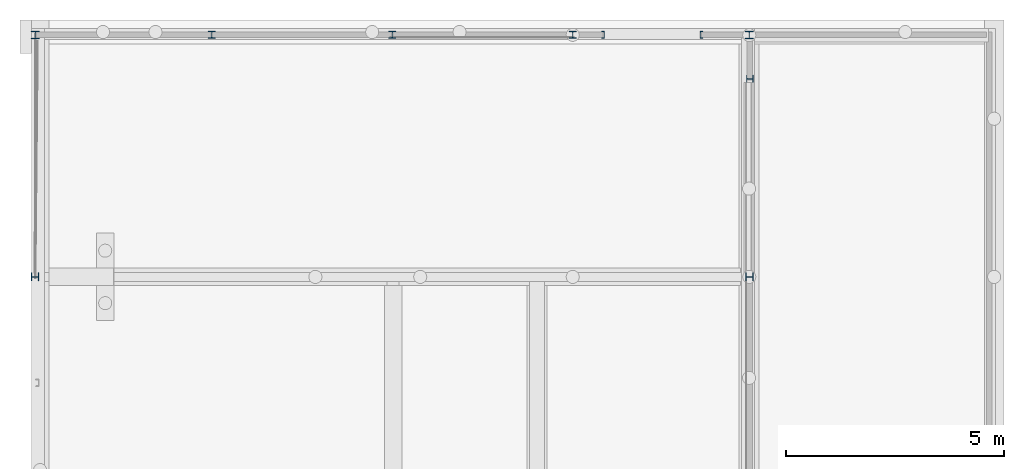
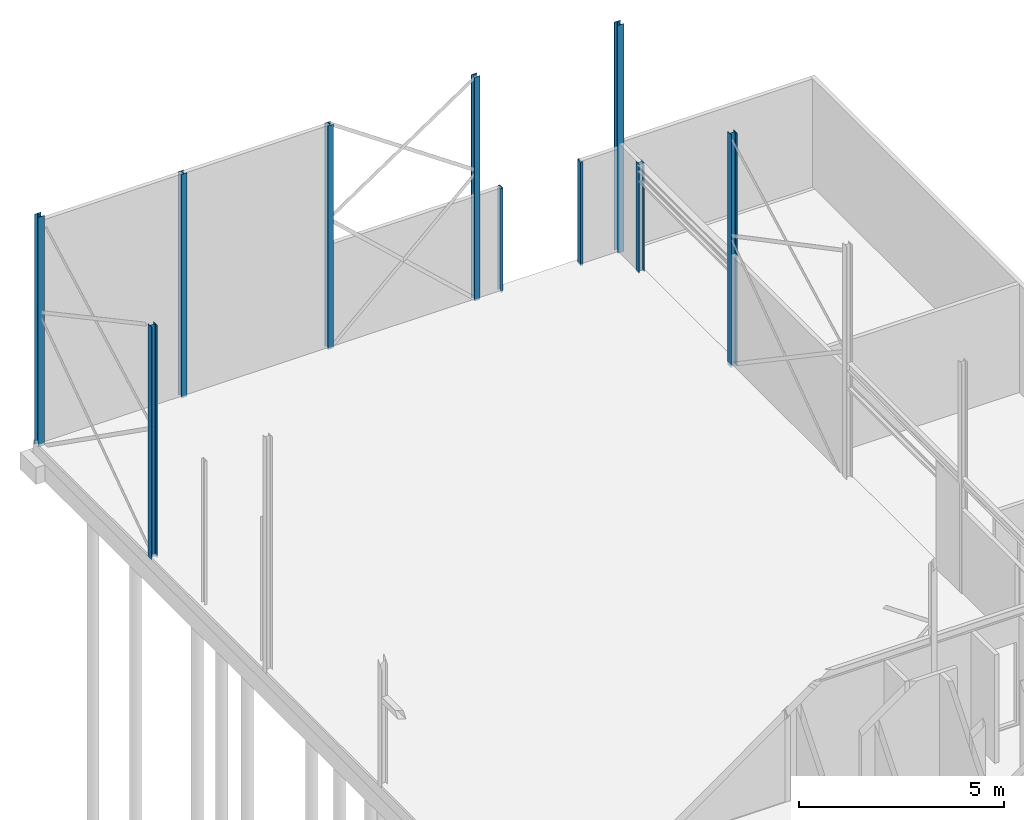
# One storey, part 7 of 17: 10 columns.
"""IFC2X3 building model written with IfcOpenShell, lengths in millimetres."""

from ifc_helpers import new_model, entity, si_unit, converted_unit, derived_unit, direction, frame, frame_2d, origin, place, context, subcontext, project, spatial, polyline, circle_curve, parameter, trimmed, segment, composite_curve, outline, extrude, source, transform, mapped, material, type_object, type_shapes, element, save


model = new_model("IFC2X3")

# Units and contexts
model_context = context("Model", 3, precision=0.01, world=origin(), true_north=direction((6.123031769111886e-17, 1.0)))
plan_context = context("Plan", 3, precision=0.01, world=origin(), true_north=direction((6.123031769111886e-17, 1.0)))
body_context = subcontext(model_context, "Body", "Model", "MODEL_VIEW")
ifc_project = project(units=[si_unit("LENGTHUNIT", "METRE", prefix="MILLI"), si_unit("AREAUNIT", "SQUARE_METRE"), si_unit("VOLUMEUNIT", "CUBIC_METRE"), converted_unit("PLANEANGLEUNIT", "DEGREE", entity("IfcPlaneAngleMeasure", 0.017453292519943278), si_unit("PLANEANGLEUNIT", "RADIAN"), dimensions=[0, 0, 0, 0, 0, 0, 0]), si_unit("MASSUNIT", "GRAM", prefix="KILO"), derived_unit("MASSDENSITYUNIT", [(si_unit("MASSUNIT", "GRAM", prefix="KILO"), 1), (si_unit("LENGTHUNIT", "METRE"), -3)]), derived_unit("IONCONCENTRATIONUNIT", [(si_unit("MASSUNIT", "GRAM", prefix="KILO"), 1), (si_unit("LENGTHUNIT", "METRE"), -3)]), derived_unit("MOMENTOFINERTIAUNIT", [(si_unit("LENGTHUNIT", "METRE"), 4)]), si_unit("TIMEUNIT", "SECOND"), si_unit("FREQUENCYUNIT", "HERTZ"), si_unit("THERMODYNAMICTEMPERATUREUNIT", "DEGREE_CELSIUS"), derived_unit("THERMALTRANSMITTANCEUNIT", [(si_unit("MASSUNIT", "GRAM", prefix="KILO"), 1), (si_unit("THERMODYNAMICTEMPERATUREUNIT", "KELVIN"), -1), (si_unit("TIMEUNIT", "SECOND"), -3)]), derived_unit("THERMALCONDUCTANCEUNIT", [(si_unit("MASSUNIT", "GRAM", prefix="KILO"), 1), (si_unit("THERMODYNAMICTEMPERATUREUNIT", "KELVIN"), -1), (si_unit("TIMEUNIT", "SECOND"), -3), (si_unit("LENGTHUNIT", "METRE"), 1)]), derived_unit("VOLUMETRICFLOWRATEUNIT", [(si_unit("LENGTHUNIT", "METRE", prefix="DECI"), 3), (si_unit("TIMEUNIT", "SECOND"), -1)]), derived_unit("MASSFLOWRATEUNIT", [(si_unit("MASSUNIT", "GRAM", prefix="KILO"), 1), (si_unit("TIMEUNIT", "SECOND"), -1)]), derived_unit("ROTATIONALFREQUENCYUNIT", [(si_unit("TIMEUNIT", "SECOND"), -1)]), si_unit("ELECTRICCURRENTUNIT", "AMPERE"), si_unit("ELECTRICVOLTAGEUNIT", "VOLT"), si_unit("POWERUNIT", "WATT"), si_unit("FORCEUNIT", "NEWTON", prefix="KILO"), si_unit("ILLUMINANCEUNIT", "LUX"), si_unit("LUMINOUSFLUXUNIT", "LUMEN"), si_unit("LUMINOUSINTENSITYUNIT", "CANDELA"), si_unit("ENERGYUNIT", "JOULE"), derived_unit("USERDEFINED", [(si_unit("MASSUNIT", "GRAM", prefix="KILO"), -1), (si_unit("LENGTHUNIT", "METRE"), -2), (si_unit("TIMEUNIT", "SECOND"), 3), (si_unit("LUMINOUSFLUXUNIT", "LUMEN"), 1)]), derived_unit("USERDEFINED", [(si_unit("MASSUNIT", "GRAM", prefix="KILO"), 1), (si_unit("TIMEUNIT", "SECOND"), -3), (si_unit("LENGTHUNIT", "METRE"), 3), (si_unit("ELECTRICCURRENTUNIT", "AMPERE"), -2)]), derived_unit("SOUNDPOWERUNIT", [(si_unit("MASSUNIT", "GRAM", prefix="KILO"), 1), (si_unit("TIMEUNIT", "SECOND"), -3), (si_unit("LENGTHUNIT", "METRE"), 2)]), derived_unit("SOUNDPRESSUREUNIT", [(si_unit("MASSUNIT", "GRAM", prefix="KILO"), 1), (si_unit("LENGTHUNIT", "METRE"), -1), (si_unit("TIMEUNIT", "SECOND"), -2)]), derived_unit("LINEARVELOCITYUNIT", [(si_unit("LENGTHUNIT", "METRE"), 1), (si_unit("TIMEUNIT", "SECOND"), -1)]), si_unit("PRESSUREUNIT", "PASCAL"), derived_unit("USERDEFINED", [(si_unit("MASSUNIT", "GRAM", prefix="KILO"), 1), (si_unit("LENGTHUNIT", "METRE"), -2), (si_unit("TIMEUNIT", "SECOND"), -2)]), derived_unit("LINEARFORCEUNIT", [(si_unit("MASSUNIT", "GRAM", prefix="KILO"), 1), (si_unit("TIMEUNIT", "SECOND"), -2)]), derived_unit("PLANARFORCEUNIT", [(si_unit("MASSUNIT", "GRAM", prefix="KILO"), 1), (si_unit("LENGTHUNIT", "METRE"), -1), (si_unit("TIMEUNIT", "SECOND"), -2)]), derived_unit("SPECIFICHEATCAPACITYUNIT", [(si_unit("THERMODYNAMICTEMPERATUREUNIT", "KELVIN"), -1), (si_unit("LENGTHUNIT", "METRE"), 2), (si_unit("TIMEUNIT", "SECOND"), -2)]), derived_unit("HEATFLUXDENSITYUNIT", [(si_unit("MASSUNIT", "GRAM", prefix="KILO"), 1), (si_unit("TIMEUNIT", "SECOND"), -3)]), derived_unit("HEATINGVALUEUNIT", [(si_unit("LENGTHUNIT", "METRE"), 2), (si_unit("TIMEUNIT", "SECOND"), -2)]), derived_unit("VAPORPERMEABILITYUNIT", [(si_unit("LENGTHUNIT", "METRE"), -1), (si_unit("TIMEUNIT", "SECOND"), 1)]), derived_unit("DYNAMICVISCOSITYUNIT", [(si_unit("MASSUNIT", "GRAM", prefix="KILO"), 1), (si_unit("TIMEUNIT", "SECOND"), -1), (si_unit("LENGTHUNIT", "METRE"), -1)]), derived_unit("THERMALEXPANSIONCOEFFICIENTUNIT", [(si_unit("THERMODYNAMICTEMPERATUREUNIT", "KELVIN"), -1)]), derived_unit("MODULUSOFELASTICITYUNIT", [(si_unit("MASSUNIT", "GRAM", prefix="KILO"), 1), (si_unit("LENGTHUNIT", "METRE"), -1), (si_unit("TIMEUNIT", "SECOND"), -2)]), derived_unit("ISOTHERMALMOISTURECAPACITYUNIT", [(si_unit("MASSUNIT", "GRAM", prefix="KILO"), -1), (si_unit("LENGTHUNIT", "METRE"), 3)]), derived_unit("MOISTUREDIFFUSIVITYUNIT", [(si_unit("TIMEUNIT", "SECOND"), -1), (si_unit("LENGTHUNIT", "METRE"), 2)]), derived_unit("MASSPERLENGTHUNIT", [(si_unit("MASSUNIT", "GRAM", prefix="KILO"), 1), (si_unit("LENGTHUNIT", "METRE"), -1)]), derived_unit("THERMALRESISTANCEUNIT", [(si_unit("MASSUNIT", "GRAM", prefix="KILO"), -1), (si_unit("TIMEUNIT", "SECOND"), 3), (si_unit("THERMODYNAMICTEMPERATUREUNIT", "KELVIN"), 1)]), derived_unit("ACCELERATIONUNIT", [(si_unit("LENGTHUNIT", "METRE"), 1), (si_unit("TIMEUNIT", "SECOND"), -2)]), derived_unit("ANGULARVELOCITYUNIT", [(si_unit("TIMEUNIT", "SECOND"), -1), (si_unit("PLANEANGLEUNIT", "RADIAN"), 1)]), derived_unit("LINEARSTIFFNESSUNIT", [(si_unit("MASSUNIT", "GRAM", prefix="KILO"), 1), (si_unit("TIMEUNIT", "SECOND"), -2)]), derived_unit("WARPINGCONSTANTUNIT", [(si_unit("LENGTHUNIT", "METRE"), 6)]), derived_unit("LINEARMOMENTUNIT", [(si_unit("MASSUNIT", "GRAM", prefix="KILO"), 1), (si_unit("LENGTHUNIT", "METRE"), 1), (si_unit("TIMEUNIT", "SECOND"), -2)]), derived_unit("TORQUEUNIT", [(si_unit("MASSUNIT", "GRAM", prefix="KILO"), 1), (si_unit("LENGTHUNIT", "METRE"), 2), (si_unit("TIMEUNIT", "SECOND"), -2)])], contexts=[model_context, plan_context])

# Site, building, storey
site_placement = place(None, origin())
site = spatial("IfcSite", under=ifc_project, at=site_placement, Name="Default", CompositionType="ELEMENT")
building_placement = place(site_placement, origin())
building = spatial("IfcBuilding", under=site, at=building_placement, CompositionType="ELEMENT")
storey_placement = place(building_placement, origin())
storey = spatial("IfcBuildingStorey", under=building, at=storey_placement, Name="00 begane grond", CompositionType="ELEMENT", Elevation=0.0)

# Columns
ifc_material = material(Name="constructiestaal S235")
column_type_1 = type_object("IfcColumnType", Name="28_SCO_TLB_HEA kolom_dw:HE180A (S235)", PredefinedType="COLUMN", material=ifc_material)
shared_shape_1 = source(origin(), body_context, "Body", "SweptSolid", [
    extrude(outline(composite_curve([segment(polyline([(-90.0, -76.0), (-90.0, -85.49999999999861)]), True, "CONTINUOUS"), segment(polyline([(-90.0, -85.49999999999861), (90.0, -85.49999999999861)]), True, "CONTINUOUS"), segment(polyline([(90.0, -85.49999999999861), (90.0, -76.0)]), True, "CONTINUOUS"), segment(polyline([(90.0, -76.0), (18.0, -76.0)]), True, "CONTINUOUS"), segment(trimmed(circle_curve(frame_2d((18.0, -61.0), x_axis=(1.0, 0.0)), 15.0), [parameter(180.00000000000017)], [parameter(269.9999999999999)], True, "PARAMETER"), False, "CONTINUOUS"), segment(polyline([(3.0, -61.0), (3.0, 61.0)]), True, "CONTINUOUS"), segment(trimmed(circle_curve(frame_2d((18.0, 61.0), x_axis=(1.0, 0.0)), 15.0), [parameter(90.00000000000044)], [parameter(180.0000000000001)], True, "PARAMETER"), False, "CONTINUOUS"), segment(polyline([(18.0, 76.0), (90.0, 76.0)]), True, "CONTINUOUS"), segment(polyline([(90.0, 76.0), (90.0, 85.49999999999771)]), True, "CONTINUOUS"), segment(polyline([(90.0, 85.49999999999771), (-90.0, 85.49999999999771)]), True, "CONTINUOUS"), segment(polyline([(-90.0, 85.49999999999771), (-90.0, 76.0)]), True, "CONTINUOUS"), segment(polyline([(-90.0, 76.0), (-18.0, 76.0)]), True, "CONTINUOUS"), segment(trimmed(circle_curve(frame_2d((-18.0, 61.0), x_axis=(1.0, 0.0)), 15.0), [parameter(0.0)], [parameter(90.00000000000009)], True, "PARAMETER"), False, "CONTINUOUS"), segment(polyline([(-3.0, 61.0), (-3.0, -61.0)]), True, "CONTINUOUS"), segment(trimmed(circle_curve(frame_2d((-18.0, -61.0), x_axis=(1.0, 0.0)), 15.0), [parameter(269.9999999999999)], [parameter(0.0)], True, "PARAMETER"), False, "CONTINUOUS"), segment(polyline([(-18.0, -76.0), (-90.0, -76.0)]), True, "CONTINUOUS")], self_intersect=False)), frame((0.0, 0.0, -150.0), z_axis=(0.0, 0.0, -1.0), x_axis=(-1.0, 0.0, 0.0)), (0.0, 0.0, -1.0), 6935.0),
])
type_shapes(column_type_1, [shared_shape_1])
for number, where, z_axis, x_axis in (
    (1, (34151.69293735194, 33112.67034020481, 0.0), (0.0, 0.0, 1.0), (0.0, -1.0, 0.0)),
    (2, (50500.69293735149, 33112.67034020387, 0.0), (0.0, 0.0, 1.0), (0.0, -1.0, 0.0)),
):
    element("IfcColumn", number, at=place(storey_placement, frame(where, z_axis=z_axis, x_axis=x_axis)), inside=storey, type_object=column_type_1, material=ifc_material, Name="28_SCO_TLB_HEA kolom_dw:HE180A (S235)", ObjectType="28_SCO_TLB_HEA kolom_dw:HE180A (S235)", context=body_context, shape_type="MappedRepresentation", body=[
        mapped(shared_shape_1, transform((0.0, 0.0, 0.0), scale=1.0)),
    ])
column_type_2 = type_object("IfcColumnType", Name="28_SCO_TLB_HEA kolom_dw:HE160A (S235)", PredefinedType="COLUMN", material=ifc_material)
shared_shape_2 = source(origin(), body_context, "Body", "SweptSolid", [
    extrude(outline(composite_curve([segment(polyline([(-80.0, -67.0), (-80.0, -76.0)]), True, "CONTINUOUS"), segment(polyline([(-80.0, -76.0), (80.0, -76.0)]), True, "CONTINUOUS"), segment(polyline([(80.0, -76.0), (80.0, -67.0)]), True, "CONTINUOUS"), segment(polyline([(80.0, -67.0), (18.0, -67.0)]), True, "CONTINUOUS"), segment(trimmed(circle_curve(frame_2d((18.0, -52.0), x_axis=(1.0, 0.0)), 15.0), [parameter(180.00000000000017)], [parameter(269.9999999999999)], True, "PARAMETER"), False, "CONTINUOUS"), segment(polyline([(3.0, -52.0), (3.0, 52.0)]), True, "CONTINUOUS"), segment(trimmed(circle_curve(frame_2d((18.0, 52.0), x_axis=(1.0, 0.0)), 15.0), [parameter(90.00000000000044)], [parameter(180.00000000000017)], True, "PARAMETER"), False, "CONTINUOUS"), segment(polyline([(18.0, 67.0), (80.0, 67.0)]), True, "CONTINUOUS"), segment(polyline([(80.0, 67.0), (80.0, 76.0)]), True, "CONTINUOUS"), segment(polyline([(80.0, 76.0), (-80.0, 76.0)]), True, "CONTINUOUS"), segment(polyline([(-80.0, 76.0), (-80.0, 67.0)]), True, "CONTINUOUS"), segment(polyline([(-80.0, 67.0), (-18.0, 67.0)]), True, "CONTINUOUS"), segment(trimmed(circle_curve(frame_2d((-18.0, 52.0), x_axis=(1.0, 0.0)), 15.0), [parameter(359.99999999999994)], [parameter(90.00000000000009)], True, "PARAMETER"), False, "CONTINUOUS"), segment(polyline([(-3.0, 52.0), (-3.0, -52.0)]), True, "CONTINUOUS"), segment(trimmed(circle_curve(frame_2d((-18.0, -52.0), x_axis=(1.0, 0.0)), 15.0), [parameter(269.9999999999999)], [parameter(0.0)], True, "PARAMETER"), False, "CONTINUOUS"), segment(polyline([(-18.0, -67.0), (-80.0, -67.0)]), True, "CONTINUOUS")], self_intersect=False)), frame((0.0, 0.0, -120.0), z_axis=(0.0, 0.0, -1.0), x_axis=(-1.0, 0.0, 0.0)), (0.0, 0.0, -1.0), 6666.999999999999),
])
type_shapes(column_type_2, [shared_shape_2])
for number, where, z_axis, x_axis in (
    (3, (38196.19293735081, 38656.67050784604, 0.0), (0.0, 0.0, 1.0), (-1.0, 0.0, 0.0)),
    (4, (42326.19293735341, 38656.67050784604, 0.0), (0.0, 0.0, 1.0), (-1.0, 0.0, 0.0)),
    (5, (46456.19293735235, 38656.670507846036, 0.0), (0.0, 0.0, 1.0), (-1.0, 0.0, 0.0)),
):
    element("IfcColumn", number, at=place(storey_placement, frame(where, z_axis=z_axis, x_axis=x_axis)), inside=storey, type_object=column_type_2, material=ifc_material, Name="28_SCO_TLB_HEA kolom_dw:HE160A (S235)", ObjectType="28_SCO_TLB_HEA kolom_dw:HE160A (S235)", context=body_context, shape_type="MappedRepresentation", body=[
        mapped(shared_shape_2, transform((0.0, 0.0, 0.0), scale=1.0)),
    ])
column_type_3 = type_object("IfcColumnType", Name="28_SCO_TLB_HEA kolom_dw:HE160A (S235)", PredefinedType="COLUMN", material=ifc_material)
shared_shape_3 = source(origin(), body_context, "Body", "SweptSolid", [
    extrude(outline(composite_curve([segment(polyline([(-80.0, -67.0), (-80.0, -76.0)]), True, "CONTINUOUS"), segment(polyline([(-80.0, -76.0), (80.0, -76.0)]), True, "CONTINUOUS"), segment(polyline([(80.0, -76.0), (80.0, -67.0)]), True, "CONTINUOUS"), segment(polyline([(80.0, -67.0), (18.0, -67.0)]), True, "CONTINUOUS"), segment(trimmed(circle_curve(frame_2d((18.0, -52.0), x_axis=(1.0, 0.0)), 15.0), [parameter(180.00000000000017)], [parameter(269.9999999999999)], True, "PARAMETER"), False, "CONTINUOUS"), segment(polyline([(3.0, -52.0), (3.0, 52.0)]), True, "CONTINUOUS"), segment(trimmed(circle_curve(frame_2d((18.0, 52.0), x_axis=(1.0, 0.0)), 15.0), [parameter(90.00000000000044)], [parameter(180.00000000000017)], True, "PARAMETER"), False, "CONTINUOUS"), segment(polyline([(18.0, 67.0), (80.0, 67.0)]), True, "CONTINUOUS"), segment(polyline([(80.0, 67.0), (80.0, 76.0)]), True, "CONTINUOUS"), segment(polyline([(80.0, 76.0), (-80.0, 76.0)]), True, "CONTINUOUS"), segment(polyline([(-80.0, 76.0), (-80.0, 67.0)]), True, "CONTINUOUS"), segment(polyline([(-80.0, 67.0), (-18.0, 67.0)]), True, "CONTINUOUS"), segment(trimmed(circle_curve(frame_2d((-18.0, 52.0), x_axis=(1.0, 0.0)), 15.0), [parameter(359.99999999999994)], [parameter(90.00000000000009)], True, "PARAMETER"), False, "CONTINUOUS"), segment(polyline([(-3.0, 52.0), (-3.0, -52.0)]), True, "CONTINUOUS"), segment(trimmed(circle_curve(frame_2d((-18.0, -52.0), x_axis=(1.0, 0.0)), 15.0), [parameter(269.9999999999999)], [parameter(0.0)], True, "PARAMETER"), False, "CONTINUOUS"), segment(polyline([(-18.0, -67.0), (-80.0, -67.0)]), True, "CONTINUOUS")], self_intersect=False)), frame((50510.192937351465, 37642.846129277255, -100.0), z_axis=(0.0, 0.0, -1.0), x_axis=(0.0, -1.0, 0.0)), (0.0, 0.0, -1.0), 3260.0000000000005),
])
type_shapes(column_type_3, [shared_shape_3])
column_1_placement = place(storey_placement, origin())
element("IfcColumn", 6, at=column_1_placement, inside=storey, type_object=column_type_3, material=ifc_material, Name="28_SCO_TLB_HEA kolom_dw:HE160A (S235)", ObjectType="28_SCO_TLB_HEA kolom_dw:HE160A (S235)", context=body_context, shape_type="MappedRepresentation", body=[
    mapped(shared_shape_3, transform((0.0, 0.0, 0.0), scale=1.0)),
])
column_type_4 = type_object("IfcColumnType", Name="28_SCO_TLB_UNP kolom_dw:UNP160 (S235)", PredefinedType="COLUMN", material=ifc_material)
shared_shape_4 = source(origin(), body_context, "Body", "SweptSolid", [
    extrude(outline(composite_curve([segment(polyline([(-35.74999999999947, -79.93760274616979), (29.24999999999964, -79.93760274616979)]), True, "CONTINUOUS"), segment(polyline([(29.24999999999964, -79.93760274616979), (29.24999999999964, -75.21770177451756)]), True, "CONTINUOUS"), segment(trimmed(circle_curve(frame_2d((23.749999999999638, -75.21770177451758), x_axis=(1.0, 0.0)), 5.5), [parameter(1.5266662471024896e-13)], [parameter(90.00000000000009)], True, "PARAMETER"), True, "CONTINUOUS"), segment(polyline([(23.749999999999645, -69.71770177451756), (-18.250000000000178, -67.32541273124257)]), True, "CONTINUOUS"), segment(trimmed(circle_curve(frame_2d((-18.250000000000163, -57.32541273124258), x_axis=(1.0, 0.0)), 10.0), [parameter(179.9999999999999)], [parameter(269.99999999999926)], True, "PARAMETER"), False, "CONTINUOUS"), segment(polyline([(-28.25000000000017, -57.32541273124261), (-28.25000000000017, 56.81086063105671)]), True, "CONTINUOUS"), segment(trimmed(circle_curve(frame_2d((-18.250000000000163, 56.81086063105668), x_axis=(1.0, 0.0)), 10.0), [parameter(90.00000000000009)], [parameter(180.0)], True, "PARAMETER"), False, "CONTINUOUS"), segment(polyline([(-18.250000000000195, 66.81086063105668), (23.750000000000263, 70.10745936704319)]), True, "CONTINUOUS"), segment(trimmed(circle_curve(frame_2d((23.750000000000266, 75.60745936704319), x_axis=(1.0, 0.0)), 5.5), [parameter(269.9999999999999)], [parameter(0.0)], True, "PARAMETER"), True, "CONTINUOUS"), segment(polyline([(29.250000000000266, 75.60745936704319), (29.250000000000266, 80.06239725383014)]), True, "CONTINUOUS"), segment(polyline([(29.250000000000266, 80.06239725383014), (-35.74999999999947, 80.06239725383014)]), True, "CONTINUOUS"), segment(polyline([(-35.74999999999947, 80.06239725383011), (-35.74999999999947, -79.93760274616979)]), True, "CONTINUOUS")], self_intersect=False)), frame((11.749999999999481, 52.062397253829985, -120.0), z_axis=(0.0, 0.0, 1.0), x_axis=(-1.0, 0.0, 0.0)), (0.0, 0.0, 1.0), 3100.0),
])
type_shapes(column_type_4, [shared_shape_4])
column_2_placement = place(storey_placement, frame((47133.69293735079, 38600.67034020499, 0.0)))
element("IfcColumn", 7, at=column_2_placement, inside=storey, type_object=column_type_4, material=ifc_material, Name="28_SCO_TLB_UNP kolom_dw:UNP160 (S235)", ObjectType="28_SCO_TLB_UNP kolom_dw:UNP160 (S235)", context=body_context, shape_type="MappedRepresentation", body=[
    mapped(shared_shape_4, transform((0.0, 0.0, 0.0), scale=1.0)),
])
column_type_5 = type_object("IfcColumnType", Name="28_SCO_TLB_UNP kolom_dw:UNP160 (S235)", PredefinedType="COLUMN", material=ifc_material)
shared_shape_5 = source(origin(), body_context, "Body", "SweptSolid", [
    extrude(outline(composite_curve([segment(polyline([(-79.93760274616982, -35.749999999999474), (80.06239725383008, -35.749999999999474)]), True, "CONTINUOUS"), segment(polyline([(80.06239725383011, -35.749999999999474), (80.06239725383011, 29.250000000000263)]), True, "CONTINUOUS"), segment(polyline([(80.06239725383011, 29.250000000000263), (75.60745936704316, 29.250000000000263)]), True, "CONTINUOUS"), segment(trimmed(circle_curve(frame_2d((75.60745936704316, 23.750000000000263), x_axis=(0.0, 1.0)), 5.5), [parameter(0.0)], [parameter(90.00000000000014)], True, "PARAMETER"), True, "CONTINUOUS"), segment(polyline([(70.10745936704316, 23.750000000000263), (66.81086063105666, -18.2500000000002)]), True, "CONTINUOUS"), segment(trimmed(circle_curve(frame_2d((56.81086063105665, -18.250000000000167), x_axis=(0.0, 1.0)), 10.0), [parameter(180.0)], [parameter(269.9999999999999)], True, "PARAMETER"), False, "CONTINUOUS"), segment(polyline([(56.810860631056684, -28.250000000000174), (-57.325412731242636, -28.250000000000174)]), True, "CONTINUOUS"), segment(trimmed(circle_curve(frame_2d((-57.32541273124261, -18.250000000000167), x_axis=(0.0, 1.0)), 10.0), [parameter(90.00000000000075)], [parameter(180.0000000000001)], True, "PARAMETER"), False, "CONTINUOUS"), segment(polyline([(-67.3254127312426, -18.25000000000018), (-69.7177017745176, 23.749999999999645)]), True, "CONTINUOUS"), segment(trimmed(circle_curve(frame_2d((-75.21770177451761, 23.74999999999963), x_axis=(0.0, 1.0)), 5.5), [parameter(269.9999999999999)], [parameter(359.99999999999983)], True, "PARAMETER"), True, "CONTINUOUS"), segment(polyline([(-75.2177017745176, 29.249999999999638), (-79.93760274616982, 29.249999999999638)]), True, "CONTINUOUS"), segment(polyline([(-79.93760274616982, 29.249999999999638), (-79.93760274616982, -35.749999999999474)]), True, "CONTINUOUS")], self_intersect=False)), frame((11.749999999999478, -52.06239725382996, -115.0), z_axis=(0.0, 0.0, 1.0), x_axis=(0.0, 1.0, 0.0)), (0.0, 0.0, 1.0), 3095.0000000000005),
])
type_shapes(column_type_5, [shared_shape_5])
column_3_placement = place(storey_placement, frame((49418.69293735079, 38600.67050785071, 0.0), z_axis=(0.0, 0.0, 1.0), x_axis=(-1.0, 0.0, 0.0)))
element("IfcColumn", 8, at=column_3_placement, inside=storey, type_object=column_type_5, material=ifc_material, Name="28_SCO_TLB_UNP kolom_dw:UNP160 (S235)", ObjectType="28_SCO_TLB_UNP kolom_dw:UNP160 (S235)", context=body_context, shape_type="MappedRepresentation", body=[
    mapped(shared_shape_5, transform((0.0, 0.0, 0.0), scale=1.0)),
])
column_type_6 = type_object("IfcColumnType", Name="28_SCO_TLB_HEA kolom_dw:HE180A (S235)", PredefinedType="COLUMN", material=ifc_material)
shared_shape_6 = source(origin(), body_context, "Body", "SweptSolid", [
    extrude(outline(composite_curve([segment(polyline([(-90.0, -76.0), (-90.0, -85.49999999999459)]), True, "CONTINUOUS"), segment(polyline([(-90.0, -85.49999999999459), (90.0, -85.50000000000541)]), True, "CONTINUOUS"), segment(polyline([(90.0, -85.50000000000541), (90.0, -76.0)]), True, "CONTINUOUS"), segment(polyline([(90.0, -76.0), (18.0, -76.0)]), True, "CONTINUOUS"), segment(trimmed(circle_curve(frame_2d((18.0, -61.0), x_axis=(1.0, 0.0)), 15.0), [parameter(180.00000000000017)], [parameter(269.9999999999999)], True, "PARAMETER"), False, "CONTINUOUS"), segment(polyline([(3.0, -61.0), (3.0, 61.0)]), True, "CONTINUOUS"), segment(trimmed(circle_curve(frame_2d((18.0, 61.0), x_axis=(1.0, 0.0)), 15.0), [parameter(90.00000000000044)], [parameter(180.0000000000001)], True, "PARAMETER"), False, "CONTINUOUS"), segment(polyline([(18.0, 76.0), (90.0, 76.0)]), True, "CONTINUOUS"), segment(polyline([(90.0, 76.0), (90.0, 85.49999999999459)]), True, "CONTINUOUS"), segment(polyline([(90.0, 85.49999999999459), (-90.0, 85.49999999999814)]), True, "CONTINUOUS"), segment(polyline([(-90.0, 85.49999999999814), (-90.0, 76.0)]), True, "CONTINUOUS"), segment(polyline([(-90.0, 76.0), (-18.0, 76.0)]), True, "CONTINUOUS"), segment(trimmed(circle_curve(frame_2d((-18.0, 61.0), x_axis=(1.0, 0.0)), 15.0), [parameter(0.0)], [parameter(90.00000000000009)], True, "PARAMETER"), False, "CONTINUOUS"), segment(polyline([(-3.0, 61.0), (-3.0, -61.0)]), True, "CONTINUOUS"), segment(trimmed(circle_curve(frame_2d((-18.0, -61.0), x_axis=(1.0, 0.0)), 15.0), [parameter(269.9999999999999)], [parameter(0.0)], True, "PARAMETER"), False, "CONTINUOUS"), segment(polyline([(-18.0, -76.0), (-90.0, -76.0)]), True, "CONTINUOUS")], self_intersect=False)), frame((34156.19293735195, 38647.17050784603, -150.0), z_axis=(0.0, 0.0, -1.0), x_axis=(-1.0, 0.0, 0.0)), (0.0, 0.0, -1.0), 6846.999999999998),
])
type_shapes(column_type_6, [shared_shape_6])
column_4_placement = place(storey_placement, origin())
element("IfcColumn", 9, at=column_4_placement, inside=storey, type_object=column_type_6, material=ifc_material, Name="28_SCO_TLB_HEA kolom_dw:HE180A (S235)", ObjectType="28_SCO_TLB_HEA kolom_dw:HE180A (S235)", context=body_context, shape_type="MappedRepresentation", body=[
    mapped(shared_shape_6, transform((0.0, 0.0, 0.0), scale=1.0)),
])
column_type_7 = type_object("IfcColumnType", Name="28_SCO_TLB_HEA kolom_dw:HE180A (S235)", PredefinedType="COLUMN", material=ifc_material)
shared_shape_7 = source(origin(), body_context, "Body", "SweptSolid", [
    extrude(outline(composite_curve([segment(polyline([(-90.0, -76.0), (-90.0, -85.49999999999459)]), True, "CONTINUOUS"), segment(polyline([(-90.0, -85.49999999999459), (90.0, -85.49999999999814)]), True, "CONTINUOUS"), segment(polyline([(90.0, -85.49999999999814), (90.0, -76.0)]), True, "CONTINUOUS"), segment(polyline([(90.0, -76.0), (18.0, -76.0)]), True, "CONTINUOUS"), segment(trimmed(circle_curve(frame_2d((18.0, -61.0), x_axis=(1.0, 0.0)), 15.0), [parameter(180.00000000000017)], [parameter(269.9999999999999)], True, "PARAMETER"), False, "CONTINUOUS"), segment(polyline([(3.0, -61.0), (3.0, 61.0)]), True, "CONTINUOUS"), segment(trimmed(circle_curve(frame_2d((18.0, 61.0), x_axis=(1.0, 0.0)), 15.0), [parameter(90.00000000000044)], [parameter(180.0000000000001)], True, "PARAMETER"), False, "CONTINUOUS"), segment(polyline([(18.0, 76.0), (90.0, 76.0)]), True, "CONTINUOUS"), segment(polyline([(90.0, 76.0), (90.0, 85.49999999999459)]), True, "CONTINUOUS"), segment(polyline([(90.0, 85.49999999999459), (-90.0, 85.49999999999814)]), True, "CONTINUOUS"), segment(polyline([(-90.0, 85.49999999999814), (-90.0, 76.0)]), True, "CONTINUOUS"), segment(polyline([(-90.0, 76.0), (-18.0, 76.0)]), True, "CONTINUOUS"), segment(trimmed(circle_curve(frame_2d((-18.0, 61.0), x_axis=(1.0, 0.0)), 15.0), [parameter(0.0)], [parameter(90.00000000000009)], True, "PARAMETER"), False, "CONTINUOUS"), segment(polyline([(-3.0, 61.0), (-3.0, -61.0)]), True, "CONTINUOUS"), segment(trimmed(circle_curve(frame_2d((-18.0, -61.0), x_axis=(1.0, 0.0)), 15.0), [parameter(269.9999999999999)], [parameter(0.0)], True, "PARAMETER"), False, "CONTINUOUS"), segment(polyline([(-18.0, -76.0), (-90.0, -76.0)]), True, "CONTINUOUS")], self_intersect=False)), frame((50496.19293735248, 38647.17050784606, -100.0), z_axis=(0.0, 0.0, -1.0), x_axis=(-1.0, 0.0, 0.0)), (0.0, 0.0, -1.0), 6796.999999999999),
])
type_shapes(column_type_7, [shared_shape_7])
column_5_placement = place(storey_placement, origin())
element("IfcColumn", 10, at=column_5_placement, inside=storey, type_object=column_type_7, material=ifc_material, Name="28_SCO_TLB_HEA kolom_dw:HE180A (S235)", ObjectType="28_SCO_TLB_HEA kolom_dw:HE180A (S235)", context=body_context, shape_type="MappedRepresentation", body=[
    mapped(shared_shape_7, transform((0.0, 0.0, 0.0), scale=1.0)),
])

save(model, "model.ifc")
